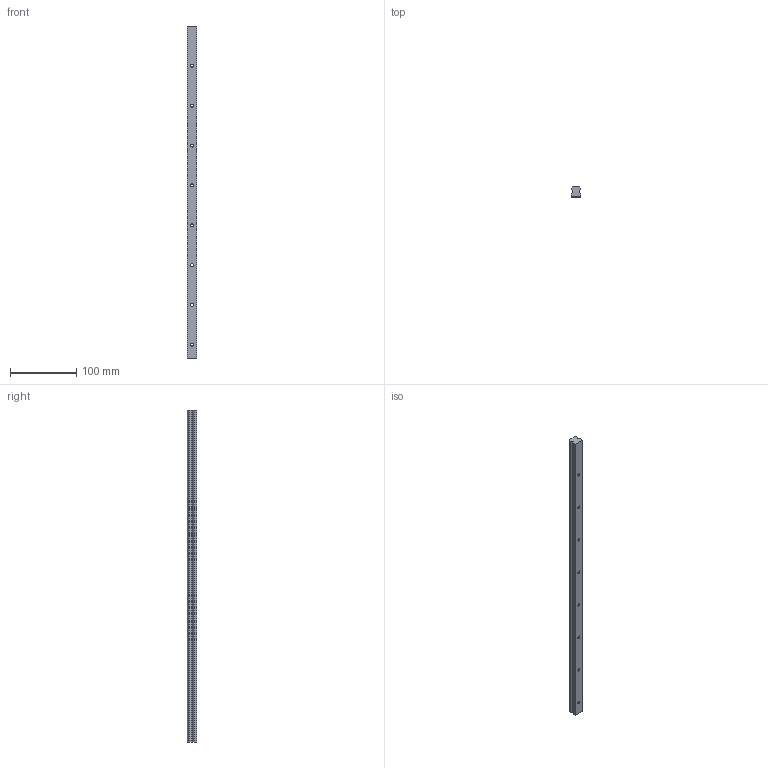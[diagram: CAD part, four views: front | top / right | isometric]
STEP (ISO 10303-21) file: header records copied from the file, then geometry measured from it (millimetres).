
FILE_DESCRIPTION(('STEP AP203'), '1');
FILE_NAME('HGR15R - 凎錪黟', '', ('UNSPECIFIED'), ('UNSPECIFIED'), 'ASCON STEP Converter 1.6', 'ASCON Math Kernel', '');
FILE_SCHEMA(('CONFIG_CONTROL_DESIGN'));
Length unit declared in the file: millimetre
Products named in the file (1): HGR15R
Bounding box: 15 x 15 x 500 mm (x, y, z)
Volume: 95017.7 mm3; surface area: 32840.7 mm2
Topology: 1 solids, 1 shells, 40 faces, 90 edges, 60 vertices
Faces by surface type: plane 24, cylinder 16
Full cylindrical faces by diameter (mm): 4.5 x8, 7.5 x8
Entity records: 1438 total; most frequent: DIRECTION 188, CARTESIAN_POINT 175, ORIENTED_EDGE 148, EDGE_LOOP 80, EDGE_CURVE 74, AXIS2_PLACEMENT_3D 73, VERTEX_POINT 60, FACE_BOUND 48
